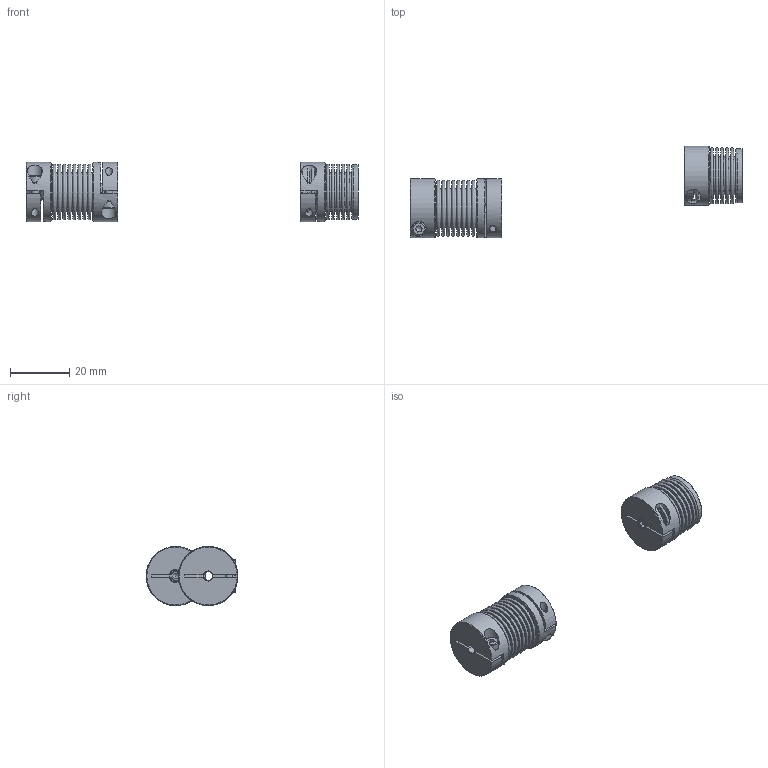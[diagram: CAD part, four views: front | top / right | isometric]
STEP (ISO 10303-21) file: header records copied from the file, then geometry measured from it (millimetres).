
FILE_DESCRIPTION( ( 'Unknown' ), '1' );
FILE_NAME( 'C:/Dokumente und Einstellungen/Sven/Desktop/cad - homepage/KB2/KB2-15-31.stp', 'Unknown', ( 'Unknown' ), ( 'Unknown' ), 'XStep 1.0', 'Unknown', ' ' );
FILE_SCHEMA( ( 'automotive_design' ) );
Length unit declared in the file: millimetre
Products named in the file (4): Assem1; BL15_Standard; KN15_Standard_0; Socket Head Cap Screw_DIN_DIN 912 M2.5 x 8 --- 8N_0
Bounding box: 112.19 x 30.96 x 20 mm (x, y, z)
Volume: 8158.7 mm3; surface area: 18667.4 mm2
Topology: 8 solids, 8 shells, 283 faces, 545 edges, 353 vertices
Faces by surface type: plane 148, torus 82, cylinder 35, cone 18
Full cylindrical faces by diameter (mm): 2.5 x6, 2.8 x3, 3 x3, 4.5 x3, 5 x3, 18 x4, 18.3 x4, 20 x3
Entity records: 3056 total; most frequent: CARTESIAN_POINT 551, DIRECTION 521, ORIENTED_EDGE 324, AXIS2_PLACEMENT_3D 241, EDGE_LOOP 220, FACE_OUTER_BOUND 172, EDGE_CURVE 162, VERTEX_POINT 139
